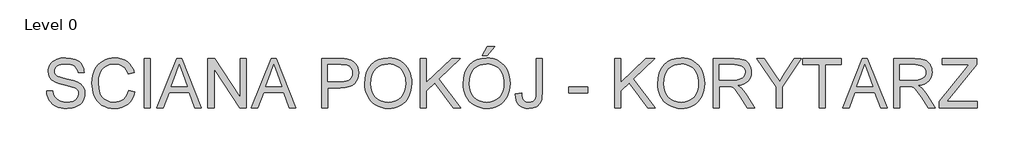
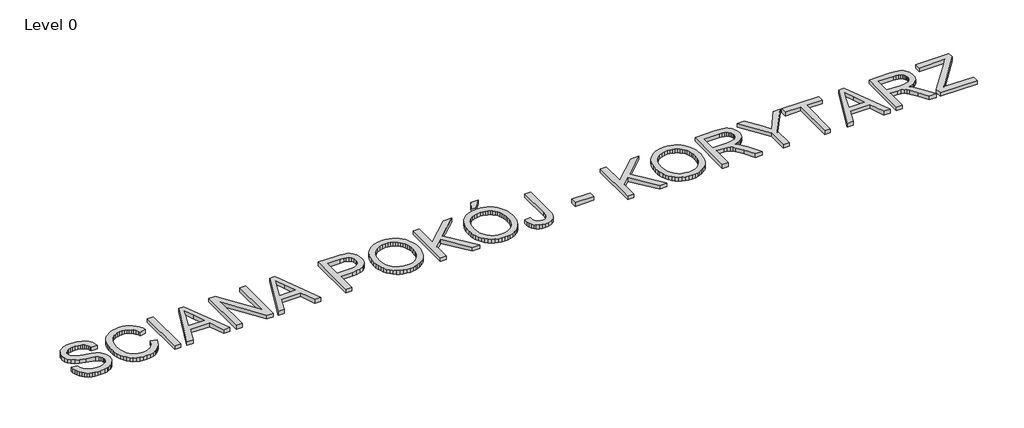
# One storey, part 2 of 4: 1 proxy.
"""IFC4 building model written with IfcOpenShell, lengths in millimetres."""

import ifcopenshell
import ifcopenshell.guid

model = None  # the IFC model being written
_history = None  # IfcOwnerHistory: only IFC2X3 demands one
_inside = {}  # id of a spatial element -> (the spatial element, [elements in it])
_under = {}  # id of a project, library or spatial element -> (it, [spatial elements below it])
_declared = {}  # id of a project -> (the project, [libraries it declares])
_typed = {}  # id of a type object -> (the type object, [elements of that type])
_made_of = {}  # id of a material, layer set ... -> (it, [elements and type objects made of it])


def new_model(schema):
    """Start an empty IFC model of exactly this schema.

    Asked for "IFC4X3", IfcOpenShell would pick the latest addendum, in which some entities
    have other attributes; the version numbers below select the first issue.
    IFC2X3 requires an IfcOwnerHistory on every rooted entity: one is made here for all.
    """
    global model, _history
    if schema == "IFC4X3":
        model = ifcopenshell.file(schema_version=(4, 3, 0, 0))
    else:
        model = ifcopenshell.file(schema=schema)
    _inside.clear()
    _under.clear()
    _declared.clear()
    _typed.clear()
    _made_of.clear()
    _history = None
    if model.schema == "IFC2X3":
        org = make("IfcOrganization", Name="unknown")
        user = make(
            "IfcPersonAndOrganization",
            ThePerson=make("IfcPerson", FamilyName="unknown"),
            TheOrganization=org,
        )
        app = make(
            "IfcApplication",
            ApplicationDeveloper=org,
            Version="unknown",
            ApplicationFullName="unknown",
            ApplicationIdentifier="unknown",
        )
        _history = make(
            "IfcOwnerHistory",
            OwningUser=user,
            OwningApplication=app,
            ChangeAction="ADDED",
            CreationDate=0,
        )
    return model


def make(cls, **values):
    """One entity of the class cls with the attributes given. An attribute that is None is left unset."""
    return model.create_entity(
        cls, **{name: value for name, value in values.items() if value is not None}
    )


def rooted(cls, **values):
    """An entity with a GlobalId (a new one), such as an element, a storey or a relation."""
    return make(cls, GlobalId=ifcopenshell.guid.new(), OwnerHistory=_history, **values)


def si_unit(unit_type, name, prefix=None):
    """IfcSIUnit, for example si_unit("LENGTHUNIT", "METRE", prefix="MILLI")."""
    return make("IfcSIUnit", UnitType=unit_type, Prefix=prefix, Name=name)


def assignment(units):
    """IfcUnitAssignment: the units of a project."""
    return None if units is None else make("IfcUnitAssignment", Units=units)


def point(xyz):
    """IfcCartesianPoint."""
    return None if xyz is None else make("IfcCartesianPoint", Coordinates=xyz)


def direction(xyz):
    """IfcDirection."""
    return None if xyz is None else make("IfcDirection", DirectionRatios=xyz)


def frame(location, z_axis=None, x_axis=None):
    """IfcAxis2Placement3D, a coordinate frame: its origin and axes. An axis left out is left unset."""
    return make(
        "IfcAxis2Placement3D",
        Location=point(location),
        Axis=direction(z_axis),
        RefDirection=direction(x_axis),
    )


def origin():
    """The frame at (0, 0, 0) with its axes left unset."""
    return frame((0.0, 0.0, 0.0))


def origin_with_axes():
    """The frame at (0, 0, 0) with the z axis (0, 0, 1) and the x axis (1, 0, 0) written out."""
    return frame((0.0, 0.0, 0.0), z_axis=(0.0, 0.0, 1.0), x_axis=(1.0, 0.0, 0.0))


def place(relative_to, where):
    """IfcLocalPlacement: puts the frame where relative to a parent placement (None: the world)."""
    return make(
        "IfcLocalPlacement", PlacementRelTo=relative_to, RelativePlacement=where
    )


def context(
    kind, dimensions, precision=None, world=None, true_north=None, identifier=None
):
    """IfcGeometricRepresentationContext, for example the 3D "Model" context."""
    return make(
        "IfcGeometricRepresentationContext",
        ContextIdentifier=identifier,
        ContextType=kind,
        CoordinateSpaceDimension=dimensions,
        Precision=precision,
        WorldCoordinateSystem=world,
        TrueNorth=true_north,
    )


def project(units=None, contexts=None):
    """IfcProject with its units and contexts."""
    return rooted(
        "IfcProject",
        Name="project",
        RepresentationContexts=contexts,
        UnitsInContext=assignment(units),
    )


def spatial(cls, under=None, at=None, **own):
    """A site, building, storey or space (cls), placed at a placement, below another one or the project."""
    s = rooted(cls, ObjectPlacement=at, **own)
    if under is not None:
        _under.setdefault(under.id(), (under, []))[1].append(s)
    return s


def polyline(points):
    """IfcPolyline through the points."""
    return make("IfcPolyline", Points=[point(p) for p in points])


def outline(outer, holes=None, kind="AREA"):
    """IfcArbitraryClosedProfileDef: a profile drawn as a closed curve; with holes, ...WithVoids."""
    if holes is None:
        return make("IfcArbitraryClosedProfileDef", ProfileType=kind, OuterCurve=outer)
    return make(
        "IfcArbitraryProfileDefWithVoids",
        ProfileType=kind,
        OuterCurve=outer,
        InnerCurves=holes,
    )


def extrude(swept, where, along, depth):
    """IfcExtrudedAreaSolid: the profile swept, set in the frame where, extruded along a direction by depth."""
    return make(
        "IfcExtrudedAreaSolid",
        SweptArea=swept,
        Position=where,
        ExtrudedDirection=direction(along),
        Depth=depth,
    )


def shape(context_of_items, identifier, shape_type, items):
    """IfcShapeRepresentation: the items that make up one representation, for example the "Body"."""
    return make(
        "IfcShapeRepresentation",
        ContextOfItems=context_of_items,
        RepresentationIdentifier=identifier,
        RepresentationType=shape_type,
        Items=items,
    )


def made_of(thing, what):
    """Note that an element or type object is made of a material, layer set ...; save() writes the relation."""
    if what is not None:
        _made_of.setdefault(what.id(), (what, []))[1].append(thing)
    return thing


def element(
    cls,
    number,
    at=None,
    inside=None,
    cuts=None,
    type_object=None,
    material=None,
    context=None,
    identifier="Body",
    shape_type=None,
    held_by="IfcProductDefinitionShape",
    body=None,
    shapes=None,
    **own,
):
    """One element of the class cls, such as IfcWall. Its Tag is "e" and its number.

    at: its placement. inside: the storey or other place that contains it. cuts: it is an
    opening in that element (IfcRelVoidsElement). A single representation is given by context,
    identifier, shape_type and body (its items); several are given by shapes. held_by: the class
    of the entity that holds the representations. save() writes the other relations.
    """
    e = rooted(cls, Tag="e%d" % number, ObjectPlacement=at, **own)
    if body is not None:
        shapes = [shape(context, identifier, shape_type, body)]
    if shapes is not None:
        e.Representation = make(held_by, Representations=shapes)
    if inside is not None:
        _inside.setdefault(inside.id(), (inside, []))[1].append(e)
    if cuts is not None:
        rooted(
            "IfcRelVoidsElement", RelatingBuildingElement=cuts, RelatedOpeningElement=e
        )
    if type_object is not None:
        _typed.setdefault(type_object.id(), (type_object, []))[1].append(e)
    return made_of(e, material)


def aggregate(whole, parts):
    """IfcRelAggregates: a whole, such as a stair, and the parts it consists of."""
    return rooted("IfcRelAggregates", RelatingObject=whole, RelatedObjects=parts)


def save(model, path):
    """Write the relations noted so far, then the file.

    IfcRelAggregates (storeys below a building ...), IfcRelContainedInSpatialStructure (elements
    in a storey), IfcRelDefinesByType, IfcRelAssociatesMaterial and IfcRelDeclares: one each for
    every whole, place, type object, material and project.
    """
    for whole, parts in _under.values():
        aggregate(whole, parts)
    for where, things in _inside.values():
        rooted(
            "IfcRelContainedInSpatialStructure",
            RelatedElements=things,
            RelatingStructure=where,
        )
    for kind, things in _typed.values():
        rooted("IfcRelDefinesByType", RelatedObjects=things, RelatingType=kind)
    for what, things in _made_of.values():
        rooted("IfcRelAssociatesMaterial", RelatedObjects=things, RelatingMaterial=what)
    for by, libraries in _declared.values():
        rooted("IfcRelDeclares", RelatingContext=by, RelatedDefinitions=libraries)
    model.write(path)


model = new_model("IFC4")

# Units and contexts
model_context = context("Model", 3, world=origin())
ifc_project = project(units=[si_unit("LENGTHUNIT", "METRE", prefix="MILLI")], contexts=[model_context])

# Site, building, storey
site = spatial("IfcSite", under=ifc_project)
building = spatial("IfcBuilding", under=site)
storey = spatial("IfcBuildingStorey", under=building, Name="Level 0", Elevation=0.0)

# Proxy
placement = place(None, origin())
element("IfcBuildingElementProxy", 1, Name="600mm Arial", ObjectType="600mm Arial", at=placement, inside=storey, context=model_context, shape_type="SweptSolid", body=[
    extrude(outline(polyline([(74128.6250818, 14174.6317462), (74203.9673144, 14174.6317462), (74212.6125413, 14132.8219575), (74228.2475261, 14099.2159372), (74252.6381024, 14072.5444926), (74287.5501037, 14051.5384306), (74330.2244152, 14037.9084027), (74377.9019217, 14033.3650601), (74419.8772574, 14036.8047567), (74456.6286687, 14047.1238467), (74486.4087162, 14063.4578073), (74507.4699604, 14084.9421158), (74519.9963424, 14109.6086036), (74524.171803, 14135.4891019), (74521.0448061, 14160.7074127), (74511.6638152, 14182.5044209), (74492.6075278, 14201.1008558), (74460.4546415, 14216.7174465), (74350.7522305, 14245.4858185), (74278.7393299, 14264.5237117), (74232.66211, 14282.6419), (74195.1565406, 14307.9889695), (74168.5770665, 14338.7071161), (74152.7397466, 14374.1341522), (74147.46064, 14413.6078903), (74149.0931163, 14436.0440935), (74153.9905454, 14457.7353356), (74162.1529271, 14478.6816167), (74173.5802616, 14498.8829368), (74188.1437901, 14517.5161598), (74205.7147539, 14533.7581499), (74226.293153, 14547.608907), (74249.8789874, 14559.0684312), (74302.8907829, 14574.4642927), (74361.5679611, 14579.5962465), (74425.1379699, 14574.2251694), (74480.7617276, 14558.111938), (74505.0971216, 14546.1097879), (74526.4526714, 14531.5876461), (74544.828377, 14514.5455127), (74560.2242385, 14494.9833876), (74572.5206942, 14473.4714879), (74581.5981825, 14450.5800308), (74587.4567032, 14426.3090162), (74590.0962566, 14400.6584441), (74514.7540239, 14400.6584441), (74509.7140406, 14424.6995324), (74500.9216609, 14445.6136239), (74488.3768849, 14463.4007183), (74472.0797125, 14478.0608158), (74451.7266411, 14489.52034), (74427.0141681, 14497.7057144), (74397.9422934, 14502.616939), (74364.5110171, 14504.2540139), (74330.012883, 14502.6353331), (74300.5363381, 14497.7792908), (74276.0813825, 14489.6858869), (74256.6480161, 14478.3551214), (74241.8407658, 14464.7342906), (74231.2641585, 14449.7706904), (74224.918194, 14433.464321), (74222.8028726, 14415.8151823), (74224.3019917, 14400.6308529), (74228.7993491, 14386.8628692), (74236.2949447, 14374.5112312), (74246.7887787, 14363.5759389), (74263.3066802, 14353.2200608), (74289.3159373, 14342.753818), (74369.8085178, 14321.4902387), (74452.8762724, 14301.2935172), (74503.1289529, 14283.6719696), (74546.0791758, 14256.3383373), (74562.6844494, 14240.2710912), (74576.0431643, 14222.6035584), (74586.3116705, 14203.4277094), (74593.6463178, 14182.8355147), (74599.5140356, 14137.4020883), (74597.826377, 14113.834648), (74592.763401, 14090.9569864), (74584.3251078, 14068.7691036), (74572.5114972, 14047.2709995), (74557.5295029, 14027.2950071), (74539.5860586, 14009.6734596), (74518.6811642, 13994.4063568), (74494.8148198, 13981.4936987), (74468.6814026, 13971.2251926), (74440.9752898, 13963.8905453), (74380.8449777, 13958.0228275), (74342.3047402, 13959.60472), (74307.0294554, 13964.3503978), (74275.0191233, 13972.2598607), (74246.2737439, 13983.3331087), (74220.6185732, 13997.588536), (74197.8788674, 14015.0445367), (74178.0546264, 14035.7011107), (74161.1458502, 14059.5582581), (74147.5250193, 14085.8434267), (74137.5646143, 14113.7840642), (74131.2646351, 14143.3801707), (74128.6250818, 14174.6317462)])), origin_with_axes(), (0.0, 0.0, 1.0), 50.0),
    extrude(outline(polyline([(75136.327443, 14181.6950805), (75211.6696756, 14162.2709112), (75196.7612577, 14115.4165406), (75176.9048271, 14074.475873), (75152.1003835, 14039.4489086), (75122.3479272, 14010.3356472), (75088.3188426, 13987.4487885), (75050.6845145, 13971.1010324), (75009.4449429, 13961.2923787), (74964.6001276, 13958.0228275), (74918.656265, 13960.4968339), (74877.2097597, 13967.9188531), (74840.2606118, 13980.2888852), (74807.8088213, 13997.6069301), (74779.4083313, 14019.6154705), (74754.6130848, 14046.0569889), (74733.4230819, 14076.9314853), (74715.8383225, 14112.2389598), (74702.0289521, 14150.4527021), (74692.1651161, 14190.0460018), (74686.2468145, 14231.018859), (74684.2740473, 14273.3712737), (74686.5043319, 14318.8138972), (74693.1951857, 14361.2582824), (74704.3466087, 14400.7044293), (74719.9586008, 14437.152338), (74739.6816743, 14469.9996016), (74763.1663412, 14498.6438135), (74790.4126015, 14523.0849735), (74821.4204551, 14543.3230818), (74855.13684, 14559.1925913), (74890.5086938, 14570.5279553), (74927.5360166, 14577.3291737), (74966.2188084, 14579.5962465), (75009.3115856, 14576.6623876), (75048.8267104, 14567.8608109), (75084.7641828, 14553.1915163), (75117.1240028, 14532.6545039), (75145.3727415, 14506.7923997), (75168.9769701, 14476.1478295), (75187.9366884, 14440.7207933), (75202.2518965, 14400.5112913), (75126.9096639, 14382.5586499), (75115.0454696, 14412.1869461), (75100.7900423, 14437.5018259), (75084.143382, 14458.5032893), (75065.1054887, 14475.1913363), (75043.5659979, 14487.9062577), (75019.4145449, 14496.9883445), (74992.6511298, 14502.4375965), (74963.2757525, 14504.2540139), (74929.4765942, 14502.23986), (74898.5653095, 14496.1973982), (74870.5418985, 14486.1266286), (74845.4063612, 14472.0275511), (74823.4759958, 14454.5347622), (74805.0681004, 14434.2828584), (74790.1826752, 14411.2718396), (74778.8197201, 14385.5017059), (74764.41714, 14330.3561948), (74759.6162799, 14273.5184265), (74765.3000568, 14203.915153), (74772.4047778, 14172.6451834), (74782.3513872, 14143.7296586), (74795.3008335, 14117.7433942), (74811.4140648, 14095.2612058), (74830.6910814, 14076.2830933), (74853.1318831, 14060.8090569), (74877.6466196, 14048.8023083), (74903.1454403, 14040.2260593), (74929.6283455, 14035.0803099), (74957.0953349, 14033.3650601), (74989.8506281, 14035.7011107), (75019.984762, 14042.7092627), (75047.4977367, 14054.3895161), (75072.3895522, 14070.7418708), (75094.0715973, 14091.6927504), (75111.9552608, 14117.1685786), (75126.0405427, 14147.1693553), (75136.327443, 14181.6950805)])), origin_with_axes(), (0.0, 0.0, 1.0), 50.0),
    extrude(outline(polyline([(75324.6830245, 13967.4406065), (75324.6830245, 14570.1784674), (75400.0252571, 14570.1784674), (75400.0252571, 13967.4406065), (75324.6830245, 13967.4406065)])), origin_with_axes(), (0.0, 0.0, 1.0), 50.0),
    extrude(outline(polyline([(75480.5178377, 13967.4406065), (75721.1126625, 14570.1784674), (75785.2712825, 14570.1784674), (76025.8661073, 13967.4406065), (75946.2564436, 13967.4406065), (75877.2417813, 14155.7961881), (75628.9950109, 14155.7961881), (75560.1275014, 13967.4406065), (75480.5178377, 13967.4406065)]), holes=[polyline([(75656.659737, 14231.1384207), (75849.724208, 14231.1384207), (75795.4248255, 14379.3212883), (75753.1919725, 14494.8362348), (75715.668009, 14392.2707346), (75656.659737, 14231.1384207)])]), origin_with_axes(), (0.0, 0.0, 1.0), 50.0),
    extrude(outline(polyline([(76106.3586879, 13967.4406065), (76106.3586879, 14570.1784674), (76186.9984212, 14570.1784674), (76501.9054091, 14092.6676377), (76501.9054091, 14570.1784674), (76577.2476417, 14570.1784674), (76577.2476417, 13967.4406065), (76496.6079084, 13967.4406065), (76181.7009205, 14445.0985891), (76181.7009205, 13967.4406065), (76106.3586879, 13967.4406065)])), origin_with_axes(), (0.0, 0.0, 1.0), 50.0),
    extrude(outline(polyline([(76638.9046641, 13967.4406065), (76879.4994889, 14570.1784674), (76943.6581089, 14570.1784674), (77184.2529337, 13967.4406065), (77104.64327, 13967.4406065), (77035.6286077, 14155.7961881), (76787.3818373, 14155.7961881), (76718.5143278, 13967.4406065), (76638.9046641, 13967.4406065)]), holes=[polyline([(76815.0465634, 14231.1384207), (77008.1110344, 14231.1384207), (76953.811652, 14379.3212883), (76911.5787989, 14494.8362348), (76874.0548354, 14392.2707346), (76815.0465634, 14231.1384207)])]), origin_with_axes(), (0.0, 0.0, 1.0), 50.0),
    extrude(outline(polyline([(77500.1899912, 13967.4406065), (77500.1899912, 14570.1784674), (77723.5679387, 14570.1784674), (77775.5864528, 14568.7437276), (77813.6254511, 14564.4395083), (77853.7797709, 14553.7157481), (77886.8339681, 14536.2597475), (77913.4502305, 14511.28056), (77934.2907455, 14477.9872394), (77947.7552265, 14438.7158365), (77952.2433869, 14395.8024017), (77949.2129589, 14358.8026701), (77940.1216751, 14324.7643884), (77924.9695355, 14293.6875569), (77903.7565399, 14265.5721754), (77874.6340815, 14242.266851), (77835.7535531, 14225.6201907), (77787.1149548, 14215.6321946), (77728.7182866, 14212.3028625), (77575.5322238, 14212.3028625), (77575.5322238, 13967.4406065), (77500.1899912, 13967.4406065)]), holes=[polyline([(77575.5322238, 14287.6450951), (77733.1328705, 14287.6450951), (77769.3692471, 14289.3741405), (77799.9402409, 14294.5612766), (77824.8458519, 14303.2065035), (77844.0860803, 14315.3098212), (77858.4426752, 14330.5493328), (77868.6973858, 14348.6031417), (77874.8502121, 14369.4712479), (77876.9011543, 14393.1536514), (77872.063506, 14426.9987949), (77857.5505613, 14455.5464377), (77835.1649419, 14477.0307463), (77806.7092696, 14489.6858869), (77777.646592, 14493.5486478), (77731.367037, 14494.8362348), (77575.5322238, 14494.8362348), (77575.5322238, 14287.6450951)])]), origin_with_axes(), (0.0, 0.0, 1.0), 50.0),
    extrude(outline(polyline([(78027.5856195, 14260.8632859), (78032.6072087, 14331.5610083), (78047.6719764, 14394.1469327), (78072.7799226, 14448.6210592), (78089.1000876, 14472.8161981), (78107.9310472, 14494.9833876), (78151.0192259, 14532.0015134), (78199.9383342, 14558.4430318), (78254.6883722, 14574.3079428), (78315.2693397, 14579.5962465), (78355.8191326, 14577.113043), (78394.3271805, 14569.6634326), (78430.7934832, 14557.2474153), (78465.2180409, 14539.864991), (78496.6351633, 14518.0403917), (78524.0791602, 14492.2978491), (78547.5500315, 14462.6373632), (78567.0477772, 14429.0589341), (78582.3700623, 14392.3259169), (78593.3145517, 14353.2016667), (78599.8812453, 14311.6861835), (78602.0701432, 14267.7794674), (78599.7662822, 14223.2933371), (78592.8546992, 14181.2168339), (78581.3353942, 14141.5499578), (78565.2083672, 14104.2927087), (78544.8552959, 14070.4291711), (78520.6578576, 14040.9434292), (78492.6160525, 14015.835483), (78460.7298806, 13995.1053326), (78426.2547391, 13978.8817366), (78390.4460254, 13967.2934537), (78353.3037395, 13960.340484), (78314.8278813, 13958.0228275), (78273.5699156, 13960.5842058), (78234.55603, 13968.268341), (78197.7862246, 13981.075233), (78163.2604993, 13999.0048817), (78131.8801651, 14021.36291), (78104.5465329, 14047.4549405), (78081.2596026, 14077.2809732), (78062.0193742, 14110.8410083), (78046.9546065, 14146.7876777), (78036.1940582, 14183.7736138), (78029.7377292, 14221.7988165), (78027.5856195, 14260.8632859)]), holes=[polyline([(78102.9278521, 14260.1275219), (78106.694044, 14210.178344), (78117.9926198, 14165.8393665), (78136.8235794, 14127.1105895), (78163.1869229, 14093.9920129), (78195.2340432, 14067.467721), (78231.1163333, 14048.5217983), (78270.8337932, 14037.1542446), (78314.3864229, 14033.3650601), (78358.6840137, 14037.1910328), (78398.8705231, 14048.6689511), (78434.9459513, 14067.7988148), (78466.9102981, 14094.5806241), (78493.0805036, 14128.3981765), (78511.7735074, 14168.6352697), (78522.9893098, 14215.2919037), (78526.7279105, 14268.3680786), (78525.1276239, 14302.8478186), (78520.3267638, 14335.0650843), (78512.3253304, 14365.0198758), (78501.1233237, 14392.712193), (78486.8449037, 14417.7787524), (78469.6142308, 14439.8562706), (78449.4313048, 14458.9447477), (78426.2961259, 14475.0441835), (78400.9260638, 14487.8234843), (78374.0384884, 14496.9515563), (78345.6333999, 14502.4283995), (78315.7107981, 14504.2540139), (78273.6710831, 14500.7361423), (78234.6663946, 14490.1825276), (78198.6967325, 14472.5931697), (78165.7620969, 14447.9680686), (78138.2721148, 14415.120805), (78118.6364133, 14372.8649593), (78106.8549924, 14321.2005316), (78102.9278521, 14260.1275219)])]), origin_with_axes(), (0.0, 0.0, 1.0), 50.0),
    extrude(outline(polyline([(78705.665713, 13967.4406065), (78705.665713, 14570.1784674), (78781.0079456, 14570.1784674), (78781.0079456, 14275.1371073), (79090.0288216, 14570.1784674), (79195.390225, 14570.1784674), (78935.959842, 14322.3731555), (79204.808004, 13967.4406065), (79112.6903525, 13967.4406065), (78882.5433763, 14271.4582873), (78781.0079456, 14174.6317462), (78781.0079456, 13967.4406065), (78705.665713, 13967.4406065)])), origin_with_axes(), (0.0, 0.0, 1.0), 50.0),
    extrude(outline(polyline([(79468.5058182, 14607.8495837), (79525.0124927, 14720.8629327), (79619.1902834, 14720.8629327), (79525.0124927, 14607.8495837), (79468.5058182, 14607.8495837)])), origin_with_axes(), (0.0, 0.0, 1.0), 50.0),
    extrude(outline(polyline([(79233.0613413, 14260.8632859), (79238.0829305, 14331.5610083), (79253.1476982, 14394.1469327), (79278.2556444, 14448.6210592), (79294.5758094, 14472.8161981), (79313.406769, 14494.9833876), (79356.4949477, 14532.0015134), (79405.414056, 14558.4430318), (79460.164094, 14574.3079428), (79520.7450615, 14579.5962465), (79561.2948544, 14577.113043), (79599.8029023, 14569.6634326), (79636.269205, 14557.2474153), (79670.6937627, 14539.864991), (79702.1108851, 14518.0403917), (79729.554882, 14492.2978491), (79753.0257533, 14462.6373632), (79772.523499, 14429.0589341), (79787.8457841, 14392.3259169), (79798.7902735, 14353.2016667), (79805.3569671, 14311.6861835), (79807.5458649, 14267.7794674), (79805.242004, 14223.2933371), (79798.330421, 14181.2168339), (79786.811116, 14141.5499578), (79770.684089, 14104.2927087), (79750.3310176, 14070.4291711), (79726.1335794, 14040.9434292), (79698.0917743, 14015.835483), (79666.2056024, 13995.1053326), (79631.7304609, 13978.8817366), (79595.9217472, 13967.2934537), (79558.7794613, 13960.340484), (79520.3036031, 13958.0228275), (79479.0456374, 13960.5842058), (79440.0317518, 13968.268341), (79403.2619463, 13981.075233), (79368.7362211, 13999.0048817), (79337.3558869, 14021.36291), (79310.0222547, 14047.4549405), (79286.7353244, 14077.2809732), (79267.495096, 14110.8410083), (79252.4303283, 14146.7876777), (79241.66978, 14183.7736138), (79235.213451, 14221.7988165), (79233.0613413, 14260.8632859)]), holes=[polyline([(79308.4035739, 14260.1275219), (79312.1697658, 14210.178344), (79323.4683416, 14165.8393665), (79342.2993012, 14127.1105895), (79368.6626447, 14093.9920129), (79400.709765, 14067.467721), (79436.5920551, 14048.5217983), (79476.309515, 14037.1542446), (79519.8621447, 14033.3650601), (79564.1597355, 14037.1910328), (79604.3462449, 14048.6689511), (79640.4216731, 14067.7988148), (79672.3860199, 14094.5806241), (79698.5562254, 14128.3981765), (79717.2492292, 14168.6352697), (79728.4650316, 14215.2919037), (79732.2036323, 14268.3680786), (79730.6033457, 14302.8478186), (79725.8024856, 14335.0650843), (79717.8010522, 14365.0198758), (79706.5990455, 14392.712193), (79692.3206255, 14417.7787524), (79675.0899526, 14439.8562706), (79654.9070266, 14458.9447477), (79631.7718477, 14475.0441835), (79606.4017856, 14487.8234843), (79579.5142102, 14496.9515563), (79551.1091217, 14502.4283995), (79521.1865199, 14504.2540139), (79479.1468049, 14500.7361423), (79440.1421164, 14490.1825276), (79404.1724543, 14472.5931697), (79371.2378187, 14447.9680686), (79343.7478366, 14415.120805), (79324.1121351, 14372.8649593), (79312.3307142, 14321.2005316), (79308.4035739, 14260.1275219)])]), origin_with_axes(), (0.0, 0.0, 1.0), 50.0),
    extrude(outline(polyline([(79873.4703185, 14136.6663243), (79948.8125511, 14146.378409), (79951.4704985, 14116.4236175), (79956.6484376, 14091.6007799), (79964.3463683, 14071.9098961), (79974.5642908, 14057.3509662), (79987.145855, 14046.8571322), (80001.9347112, 14039.3615366), (80018.9308594, 14034.8641792), (80038.1342995, 14033.3650601), (80065.9645725, 14036.7679685), (80089.7113552, 14046.9766939), (80108.0318786, 14063.0531371), (80119.5833733, 14084.059199), (80125.7086085, 14114.4646459), (80127.7503535, 14158.739244), (80127.7503535, 14570.1784674), (80203.0925862, 14570.1784674), (80203.0925862, 14160.0636192), (80198.5492435, 14092.9803374), (80192.8700652, 14065.8536388), (80184.9192156, 14043.0035683), (80174.4989581, 14023.5196182), (80161.4115561, 14006.4912803), (80145.6570097, 13991.9185548), (80127.2353188, 13979.8014416), (80084.321884, 13963.467481), (80034.6026324, 13958.0228275), (79997.474142, 13960.8325262), (79964.9625707, 13969.2616224), (79937.0679184, 13983.3101161), (79913.7901852, 14002.9780073), (79895.5432382, 14028.1917195), (79882.7409448, 14058.8776764), (79875.3833049, 14095.035878), (79873.4703185, 14136.6663243)])), origin_with_axes(), (0.0, 0.0, 1.0), 50.0),
    extrude(outline(polyline([(80523.2970748, 14146.378409), (80523.2970748, 14221.7206416), (80758.7415517, 14221.7206416), (80758.7415517, 14146.378409), (80523.2970748, 14146.378409)])), origin_with_axes(), (0.0, 0.0, 1.0), 50.0),
    extrude(outline(polyline([(81088.3638194, 13967.4406065), (81088.3638194, 14570.1784674), (81163.706052, 14570.1784674), (81163.706052, 14275.1371073), (81472.7269279, 14570.1784674), (81578.0883313, 14570.1784674), (81318.6579483, 14322.3731555), (81587.5061104, 13967.4406065), (81495.3884588, 13967.4406065), (81265.2414826, 14271.4582873), (81163.706052, 14174.6317462), (81163.706052, 13967.4406065), (81088.3638194, 13967.4406065)])), origin_with_axes(), (0.0, 0.0, 1.0), 50.0),
    extrude(outline(polyline([(81615.7594476, 14260.8632859), (81620.7810369, 14331.5610083), (81635.8458046, 14394.1469327), (81660.9537507, 14448.6210592), (81677.2739158, 14472.8161981), (81696.1048754, 14494.9833876), (81739.1930541, 14532.0015134), (81788.1121624, 14558.4430318), (81842.8622003, 14574.3079428), (81903.4431679, 14579.5962465), (81943.9929608, 14577.113043), (81982.5010086, 14569.6634326), (82018.9673114, 14557.2474153), (82053.3918691, 14539.864991), (82084.8089915, 14518.0403917), (82112.2529883, 14492.2978491), (82135.7238596, 14462.6373632), (82155.2216054, 14429.0589341), (82170.5438905, 14392.3259169), (82181.4883798, 14353.2016667), (82188.0550734, 14311.6861835), (82190.2439713, 14267.7794674), (82187.9401103, 14223.2933371), (82181.0285273, 14181.2168339), (82169.5092224, 14141.5499578), (82153.3821954, 14104.2927087), (82133.029124, 14070.4291711), (82108.8316858, 14040.9434292), (82080.7898807, 14015.835483), (82048.9037088, 13995.1053326), (82014.4285673, 13978.8817366), (81978.6198536, 13967.2934537), (81941.4775676, 13960.340484), (81903.0017095, 13958.0228275), (81861.7437437, 13960.5842058), (81822.7298581, 13968.268341), (81785.9600527, 13981.075233), (81751.4343275, 13999.0048817), (81720.0539933, 14021.36291), (81692.720361, 14047.4549405), (81669.4334307, 14077.2809732), (81650.1932024, 14110.8410083), (81635.1284347, 14146.7876777), (81624.3678863, 14183.7736138), (81617.9115573, 14221.7988165), (81615.7594476, 14260.8632859)]), holes=[polyline([(81691.1016803, 14260.1275219), (81694.8678722, 14210.178344), (81706.166448, 14165.8393665), (81724.9974076, 14127.1105895), (81751.3607511, 14093.9920129), (81783.4078714, 14067.467721), (81819.2901615, 14048.5217983), (81859.0076214, 14037.1542446), (81902.5602511, 14033.3650601), (81946.8578418, 14037.1910328), (81987.0443513, 14048.6689511), (82023.1197794, 14067.7988148), (82055.0841263, 14094.5806241), (82081.2543317, 14128.3981765), (82099.9473356, 14168.6352697), (82111.1631379, 14215.2919037), (82114.9017387, 14268.3680786), (82113.301452, 14302.8478186), (82108.500592, 14335.0650843), (82100.4991586, 14365.0198758), (82089.2971518, 14392.712193), (82075.0187319, 14417.7787524), (82057.7880589, 14439.8562706), (82037.605133, 14458.9447477), (82014.469954, 14475.0441835), (81989.0998919, 14487.8234843), (81962.2123166, 14496.9515563), (81933.807228, 14502.4283995), (81903.8846263, 14504.2540139), (81861.8449113, 14500.7361423), (81822.8402227, 14490.1825276), (81786.8705606, 14472.5931697), (81753.935925, 14447.9680686), (81726.4459429, 14415.120805), (81706.8102414, 14372.8649593), (81695.0288206, 14321.2005316), (81691.1016803, 14260.1275219)])]), origin_with_axes(), (0.0, 0.0, 1.0), 50.0),
    extrude(outline(polyline([(82293.8395411, 13967.4406065), (82293.8395411, 14570.1784674), (82553.5642297, 14570.1784674), (82623.3698383, 14566.1133714), (82674.1559478, 14553.9180832), (82693.7548611, 14544.2243927), (82711.2752411, 14531.4037051), (82726.7170878, 14515.4560206), (82740.0804013, 14496.3813392), (82750.8639423, 14475.2051319), (82758.5664716, 14452.9528697), (82763.1879891, 14429.6245526), (82764.728495, 14405.2201808), (82762.1763136, 14374.2629109), (82754.5197696, 14345.8440268), (82741.7588629, 14319.9635284), (82723.8935935, 14296.6214158), (82700.6940352, 14276.56265), (82671.9302617, 14260.5321921), (82637.602273, 14248.530042), (82597.7100692, 14240.5561998), (82622.5421038, 14224.3326038), (82640.5315334, 14208.329737), (82671.3968328, 14171.7254785), (82701.5999446, 14130.7802124), (82802.1053057, 13967.4406065), (82714.5493908, 13967.4406065), (82636.1169495, 14092.3733321), (82579.4631222, 14175.0732046), (82558.401878, 14199.1878694), (82539.6582903, 14214.1422725), (82503.826584, 14228.4896703), (82460.122203, 14231.1384207), (82369.1817738, 14231.1384207), (82369.1817738, 13967.4406065), (82293.8395411, 13967.4406065)]), holes=[polyline([(82369.1817738, 14306.4806533), (82537.8188804, 14306.4806533), (82586.250545, 14309.1477978), (82623.8296908, 14317.1492311), (82652.1198163, 14331.0183824), (82672.6844198, 14351.2886803), (82685.2108017, 14375.8080153), (82689.3862624, 14402.4242776), (82687.3951011, 14421.6920971), (82681.4216172, 14439.1756889), (82671.4658107, 14454.8750531), (82657.5276816, 14468.7901896), (82639.2853331, 14480.1853344), (82616.4168686, 14488.3247235), (82588.922288, 14493.208357), (82556.8015913, 14494.8362348), (82369.1817738, 14494.8362348), (82369.1817738, 14306.4806533)])]), origin_with_axes(), (0.0, 0.0, 1.0), 50.0),
    extrude(outline(polyline([(83066.0974254, 13967.4406065), (83066.0974254, 14222.7507112), (82830.6529485, 14570.1784674), (82919.5332385, 14570.1784674), (83045.2017281, 14384.6187891), (83109.5075009, 14289.9995399), (83173.9604264, 14391.3878178), (83288.0038449, 14570.1784674), (83376.884135, 14570.1784674), (83141.439658, 14222.7507112), (83141.439658, 13967.4406065), (83066.0974254, 13967.4406065)])), origin_with_axes(), (0.0, 0.0, 1.0), 50.0),
    extrude(outline(polyline([(83593.4930537, 13967.4406065), (83593.4930537, 14494.8362348), (83395.7196931, 14494.8362348), (83395.7196931, 14570.1784674), (83866.6086469, 14570.1784674), (83866.6086469, 14494.8362348), (83668.8352863, 14494.8362348), (83668.8352863, 13967.4406065), (83593.4930537, 13967.4406065)])), origin_with_axes(), (0.0, 0.0, 1.0), 50.0),
    extrude(outline(polyline([(83881.1767739, 13967.4406065), (84121.7715988, 14570.1784674), (84185.9302187, 14570.1784674), (84426.5250436, 13967.4406065), (84346.9153798, 13967.4406065), (84277.9007175, 14155.7961881), (84029.6539472, 14155.7961881), (83960.7864377, 13967.4406065), (83881.1767739, 13967.4406065)]), holes=[polyline([(84057.3186732, 14231.1384207), (84250.3831443, 14231.1384207), (84196.0837618, 14379.3212883), (84153.8509088, 14494.8362348), (84116.3269453, 14392.2707346), (84057.3186732, 14231.1384207)])]), origin_with_axes(), (0.0, 0.0, 1.0), 50.0),
    extrude(outline(polyline([(84507.0176241, 13967.4406065), (84507.0176241, 14570.1784674), (84766.7423127, 14570.1784674), (84836.5479213, 14566.1133714), (84887.3340307, 14553.9180832), (84906.932944, 14544.2243927), (84924.4533241, 14531.4037051), (84939.8951708, 14515.4560206), (84953.2584843, 14496.3813392), (84964.0420253, 14475.2051319), (84971.7445545, 14452.9528697), (84976.3660721, 14429.6245526), (84977.906578, 14405.2201808), (84975.3543966, 14374.2629109), (84967.6978526, 14345.8440268), (84954.9369459, 14319.9635284), (84937.0716765, 14296.6214158), (84913.8721182, 14276.56265), (84885.1083447, 14260.5321921), (84850.780356, 14248.530042), (84810.8881521, 14240.5561998), (84835.7201868, 14224.3326038), (84853.7096164, 14208.329737), (84884.5749158, 14171.7254785), (84914.7780276, 14130.7802124), (85015.2833887, 13967.4406065), (84927.7274738, 13967.4406065), (84849.2950324, 14092.3733321), (84792.6412052, 14175.0732046), (84771.579961, 14199.1878694), (84752.8363733, 14214.1422725), (84717.004667, 14228.4896703), (84673.300286, 14231.1384207), (84582.3598567, 14231.1384207), (84582.3598567, 13967.4406065), (84507.0176241, 13967.4406065)]), holes=[polyline([(84582.3598567, 14306.4806533), (84750.9969633, 14306.4806533), (84799.428628, 14309.1477978), (84837.0077738, 14317.1492311), (84865.2978992, 14331.0183824), (84885.8625028, 14351.2886803), (84898.3888847, 14375.8080153), (84902.5643453, 14402.4242776), (84900.573184, 14421.6920971), (84894.5997002, 14439.1756889), (84884.6438937, 14454.8750531), (84870.7057646, 14468.7901896), (84852.4634161, 14480.1853344), (84829.5949516, 14488.3247235), (84802.100371, 14493.208357), (84769.9796743, 14494.8362348), (84582.3598567, 14494.8362348), (84582.3598567, 14306.4806533)])]), origin_with_axes(), (0.0, 0.0, 1.0), 50.0),
    extrude(outline(polyline([(85062.6665896, 13967.4406065), (85062.6665896, 14045.5787423), (85370.9517016, 14423.0256694), (85429.5185152, 14494.8362348), (85100.337706, 14494.8362348), (85100.337706, 14570.1784674), (85524.1377644, 14570.1784674), (85524.1377644, 14494.8362348), (85186.7163984, 14081.7783306), (85154.931394, 14042.7828391), (85533.5555435, 14042.7828391), (85533.5555435, 13967.4406065), (85062.6665896, 13967.4406065)])), origin_with_axes(), (0.0, 0.0, 1.0), 50.0),
])

save(model, "model.ifc")
